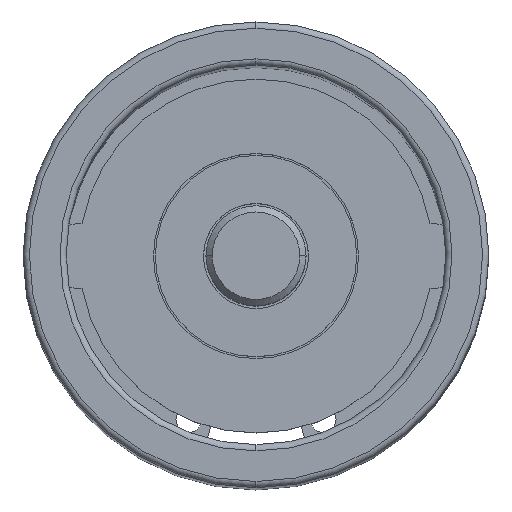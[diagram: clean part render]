
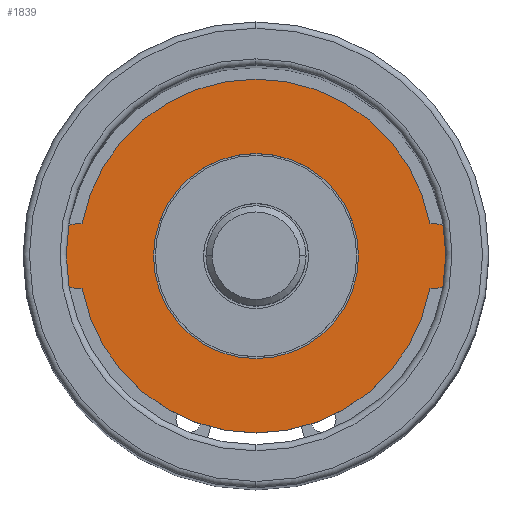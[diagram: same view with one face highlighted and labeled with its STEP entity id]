
A CAD part, top view. The second image highlights one B-rep face of the part: STEP entity #1839.
In plain terms, the highlighted planar face has unit normal (0, 0, 1).
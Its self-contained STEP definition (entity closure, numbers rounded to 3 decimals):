
#1701=CARTESIAN_POINT('',(8.2,0.,0.));
#1702=VERTEX_POINT('',#1701);
#1718=CARTESIAN_POINT('',(-8.2,0.,0.0));
#1719=VERTEX_POINT('',#1718);
#1726=CARTESIAN_POINT('',(0.0,0.,0.0));
#1727=DIRECTION('',(0.0,0.0,-1.0));
#1728=DIRECTION('',(1.0,0.0,0.0));
#1729=AXIS2_PLACEMENT_3D('',#1726,#1727,#1728);
#1730=CIRCLE('',#1729,8.2);
#1731=EDGE_CURVE('',#1702,#1719,#1730,.T.);
#1742=CARTESIAN_POINT('',(0.0,0.,0.0));
#1743=DIRECTION('',(0.0,0.0,-1.0));
#1744=DIRECTION('',(1.0,0.0,0.0));
#1745=AXIS2_PLACEMENT_3D('',#1742,#1743,#1744);
#1746=CIRCLE('',#1745,8.2);
#1747=EDGE_CURVE('',#1719,#1702,#1746,.T.);
#1767=CARTESIAN_POINT('',(-13.911,2.591,0.));
#1768=VERTEX_POINT('',#1767);
#1784=CARTESIAN_POINT('',(-13.911,-2.591,0.));
#1785=VERTEX_POINT('',#1784);
#1792=CARTESIAN_POINT('',(-14.125,0.,0.));
#1793=DIRECTION('',(0.0,0.0,-1.0));
#1794=DIRECTION('',(1.0,0.0,0.0));
#1795=AXIS2_PLACEMENT_3D('',#1792,#1793,#1794);
#1796=CIRCLE('',#1795,2.6);
#1797=EDGE_CURVE('',#1785,#1768,#1796,.T.);
#1802=CARTESIAN_POINT('',(0.0,0.,0.));
#1803=DIRECTION('',(0.0,0.0,1.0));
#1804=DIRECTION('',(1.0,0.0,0.0));
#1805=AXIS2_PLACEMENT_3D('',#1802,#1803,#1804);
#1806=PLANE('',#1805);
#1807=CARTESIAN_POINT('',(13.911,-2.591,0.));
#1808=VERTEX_POINT('',#1807);
#1809=CARTESIAN_POINT('',(0.0,0.,0.));
#1810=DIRECTION('',(0.0,0.0,-1.0));
#1811=DIRECTION('',(1.0,0.0,0.0));
#1812=AXIS2_PLACEMENT_3D('',#1809,#1810,#1811);
#1813=CIRCLE('',#1812,14.15);
#1814=EDGE_CURVE('',#1808,#1785,#1813,.T.);
#1815=ORIENTED_EDGE('',*,*,#1814,.F.);
#1816=CARTESIAN_POINT('',(13.911,2.591,0.));
#1817=VERTEX_POINT('',#1816);
#1818=CARTESIAN_POINT('',(14.125,0.,0.));
#1819=DIRECTION('',(0.0,0.0,-1.0));
#1820=DIRECTION('',(1.0,0.0,0.0));
#1821=AXIS2_PLACEMENT_3D('',#1818,#1819,#1820);
#1822=CIRCLE('',#1821,2.6);
#1823=EDGE_CURVE('',#1817,#1808,#1822,.T.);
#1824=ORIENTED_EDGE('',*,*,#1823,.F.);
#1825=CARTESIAN_POINT('',(0.0,0.,0.));
#1826=DIRECTION('',(0.0,0.0,-1.0));
#1827=DIRECTION('',(1.0,0.0,0.0));
#1828=AXIS2_PLACEMENT_3D('',#1825,#1826,#1827);
#1829=CIRCLE('',#1828,14.15);
#1830=EDGE_CURVE('',#1768,#1817,#1829,.T.);
#1831=ORIENTED_EDGE('',*,*,#1830,.F.);
#1832=ORIENTED_EDGE('',*,*,#1797,.F.);
#1833=EDGE_LOOP('',(#1815,#1824,#1831,#1832));
#1834=FACE_OUTER_BOUND('',#1833,.T.);
#1835=ORIENTED_EDGE('',*,*,#1731,.T.);
#1836=ORIENTED_EDGE('',*,*,#1747,.T.);
#1837=EDGE_LOOP('',(#1835,#1836));
#1838=FACE_BOUND('',#1837,.T.);
#1839=ADVANCED_FACE('',(#1834,#1838),#1806,.T.);
